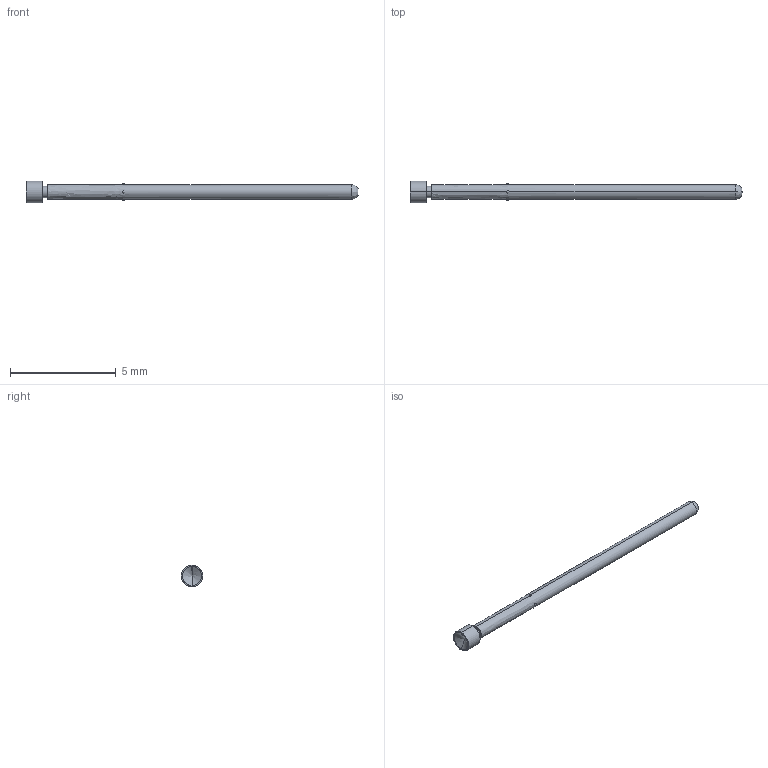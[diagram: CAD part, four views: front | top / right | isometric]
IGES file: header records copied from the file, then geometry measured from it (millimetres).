
Start section: SolidWorks IGES file using analytic representation for surfaces
Global section: file name: O:\PYLON\IGES FILES\P2662A\P2662A-2V1S FULL.IGS; native system: SolidWorks 2015; preprocessor: SolidWorks 2015; author: kgolden; date: 171019.091545; units: inch
Bounding box: 15.72 x 1.02 x 1.02 mm (x, y, z)
Surface area: 38.8 mm2 (no closed solid volume)
Topology: 0 solids, 0 shells, 24 faces, 256 edges, 238 vertices
Faces by surface type: revolution 18, bspline 6
